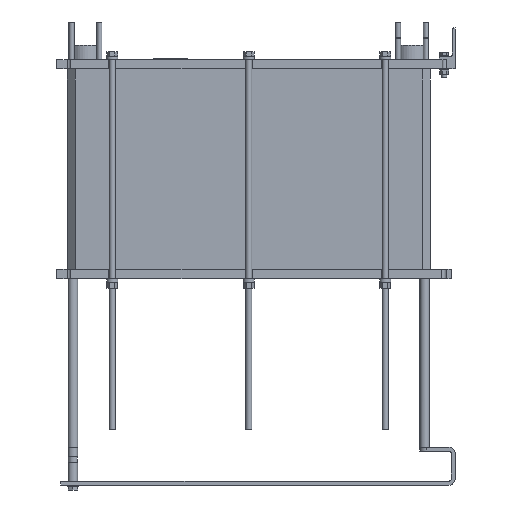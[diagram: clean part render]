
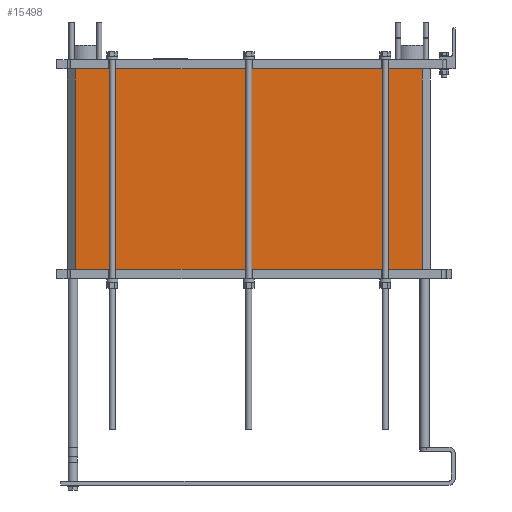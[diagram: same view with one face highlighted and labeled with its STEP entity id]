
A CAD part, left-side view. The second image highlights one B-rep face of the part: STEP entity #15498.
In plain terms, the highlighted planar face has unit normal (-1, 0, 0).
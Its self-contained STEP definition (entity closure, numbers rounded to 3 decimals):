
#1466=LINE('',#25351,#3061);
#1504=LINE('',#25451,#3099);
#1581=LINE('',#25620,#3176);
#1582=LINE('',#25622,#3177);
#3061=VECTOR('',#20768,1100.);
#3099=VECTOR('',#20836,1100.);
#3176=VECTOR('',#21073,636.);
#3177=VECTOR('',#21076,636.);
#3778=PLANE('',#16875);
#4825=FACE_OUTER_BOUND('',#5876,.T.);
#5876=EDGE_LOOP('',(#14021,#14022,#14023,#14024));
#7881=VERTEX_POINT('',#25348);
#7882=VERTEX_POINT('',#25350);
#7928=VERTEX_POINT('',#25448);
#7929=VERTEX_POINT('',#25450);
#9875=EDGE_CURVE('',#7881,#7882,#1466,.T.);
#9923=EDGE_CURVE('',#7929,#7928,#1504,.T.);
#10006=EDGE_CURVE('',#7881,#7929,#1581,.T.);
#10007=EDGE_CURVE('',#7882,#7928,#1582,.T.);
#14021=ORIENTED_EDGE('',*,*,#9923,.T.);
#14022=ORIENTED_EDGE('',*,*,#10007,.F.);
#14023=ORIENTED_EDGE('',*,*,#9875,.F.);
#14024=ORIENTED_EDGE('',*,*,#10006,.T.);
#15498=ADVANCED_FACE('',(#4825),#3778,.T.);
#16875=AXIS2_PLACEMENT_3D('',#25621,#21074,#21075);
#20768=DIRECTION('',(0.,-1.,0.));
#20836=DIRECTION('',(0.,-1.,0.));
#21073=DIRECTION('',(0.,0.,-1.));
#21074=DIRECTION('center_axis',(-1.,0.,0.));
#21075=DIRECTION('ref_axis',(0.,0.,1.));
#21076=DIRECTION('',(0.,0.,-1.));
#25348=CARTESIAN_POINT('',(-125.,550.,0.));
#25350=CARTESIAN_POINT('',(-125.,-550.,0.));
#25351=CARTESIAN_POINT('',(-125.,264.791,0.));
#25448=CARTESIAN_POINT('',(-125.,-550.,-636.));
#25450=CARTESIAN_POINT('',(-125.,550.,-636.));
#25451=CARTESIAN_POINT('',(-125.,575.,-636.));
#25620=CARTESIAN_POINT('',(-125.,550.,0.));
#25621=CARTESIAN_POINT('Origin',(-125.,550.,0.));
#25622=CARTESIAN_POINT('',(-125.,-550.,0.));
